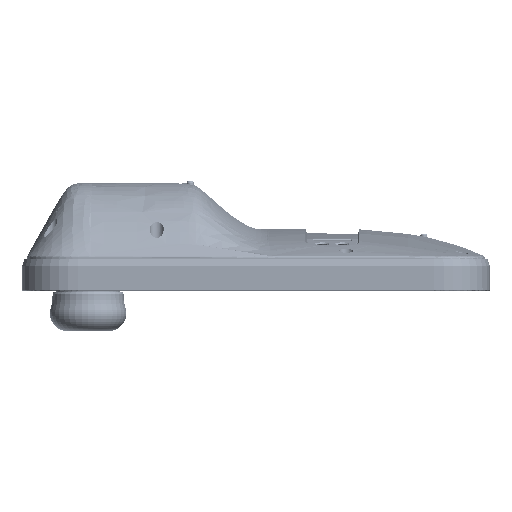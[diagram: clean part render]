
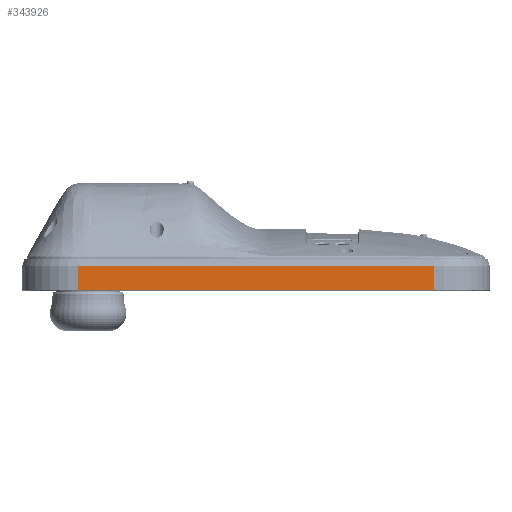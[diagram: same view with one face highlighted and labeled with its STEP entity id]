
A CAD part, left-side view. The second image highlights one B-rep face of the part: STEP entity #343926.
In plain terms, the highlighted planar face has unit normal (-1, 0, 0) as drawn and (1, 0, 0) by its records, which use the part's own axes.
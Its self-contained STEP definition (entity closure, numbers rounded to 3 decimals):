
#342807=DIRECTION('',(0.,1.,0.));
#342808=VECTOR('',#342807,140.001);
#342809=CARTESIAN_POINT('',(159.57,42.307,
-51.869));
#342810=LINE('',#342809,#342808);
#342862=DIRECTION('',(0.,0.,1.));
#342863=VECTOR('',#342862,9.308);
#342864=CARTESIAN_POINT('',(159.57,182.307,
-51.869));
#342865=LINE('',#342864,#342863);
#342883=DIRECTION('',(0.,0.,-1.));
#342884=VECTOR('',#342883,9.308);
#342885=CARTESIAN_POINT('',(159.57,42.307,
-42.561));
#342886=LINE('',#342885,#342884);
#343385=DIRECTION('',(0.,-1.,0.));
#343386=VECTOR('',#343385,140.);
#343387=CARTESIAN_POINT('',(159.57,182.307,
-42.561));
#343388=LINE('',#343387,#343386);
#343557=CARTESIAN_POINT('',(159.57,42.307,
-51.869));
#343558=VERTEX_POINT('',#343557);
#343560=CARTESIAN_POINT('',(159.57,182.307,
-51.869));
#343561=VERTEX_POINT('',#343560);
#343566=CARTESIAN_POINT('',(159.57,182.307,
-42.561));
#343567=VERTEX_POINT('',#343566);
#343568=CARTESIAN_POINT('',(159.57,42.307,
-42.561));
#343569=VERTEX_POINT('',#343568);
#343913=CARTESIAN_POINT('',(159.57,197.148,
-57.86));
#343914=DIRECTION('',(-1.,0.,0.));
#343915=DIRECTION('',(0.,1.,0.));
#343916=AXIS2_PLACEMENT_3D('',#343913,#343914,#343915);
#343917=PLANE('',#343916);
#343918=ORIENTED_EDGE('',*,*,#343852,.F.);
#343920=ORIENTED_EDGE('',*,*,#343919,.F.);
#343922=ORIENTED_EDGE('',*,*,#343921,.F.);
#343923=ORIENTED_EDGE('',*,*,#343905,.F.);
#343924=EDGE_LOOP('',(#343918,#343920,#343922,#343923));
#343925=FACE_OUTER_BOUND('',#343924,.F.);
#343852=EDGE_CURVE('',#343558,#343561,#342810,.T.);
#343905=EDGE_CURVE('',#343561,#343567,#342865,.T.);
#343919=EDGE_CURVE('',#343569,#343558,#342886,.T.);
#343921=EDGE_CURVE('',#343567,#343569,#343388,.T.);
#343926=ADVANCED_FACE('',(#343925),#343917,.F.);
